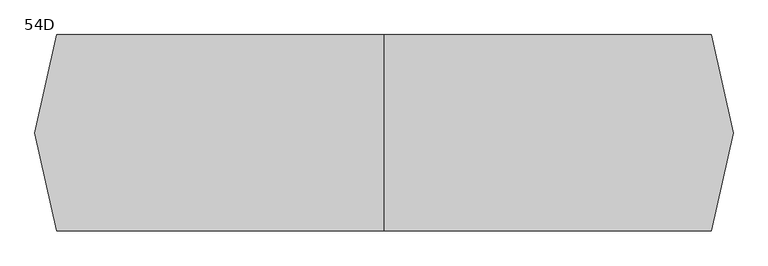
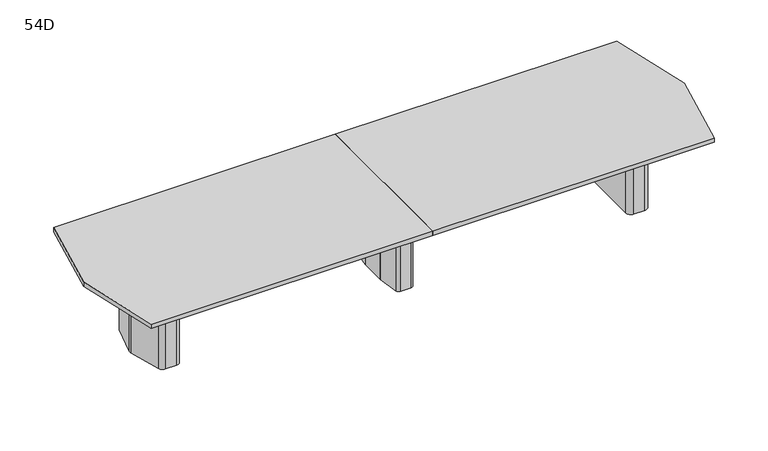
"""IFC4 building model written with IfcOpenShell, lengths in millimetres: furniture geometry, Coalesse_AM_Table_Conference_ETable2_Faceted_16ft_ThreeBase : 54D."""

from ifc_helpers import new_model, si_unit, frame, origin, place, context, project, spatial, polyline, circle_curve, outline, extrude, source, transform, mapped, element, save
from ifc_brep_helpers import plane_surface, cylinder_surface, revolved_surface, advanced_brep


def furniture_54d_60159ee5(model_context):
    return source(origin(), model_context, "Body", "SolidModel", [
        advanced_brep(
        [(35.71875, 206.375, 3.175), (10.31875, 231.775, 3.175), (-10.31875, 231.775, 3.175), (-35.71875, 206.375, 3.175), (-35.71875, -206.375, 3.175), (-10.31875, -231.775, 3.175), (10.31875, -231.775, 3.175), (35.71875, -206.375, 3.175), (-61.11875, 206.375, 0.0), (-10.31875, 257.175, 0.0), (10.31875, 257.175, 0.0), (61.11875, 206.375, 0.0), (61.11875, -206.375, 0.0), (10.31875, -257.175, 0.0), (-10.31875, -257.175, 0.0), (-61.11875, -206.375, 0.0), (-61.11875, -206.375, 3.175), (-61.11875, 206.375, 3.175), (-10.31875, -257.175, 3.175), (10.31875, -257.175, 3.175), (61.11875, -206.375, 3.175), (61.11875, 206.375, 3.175), (10.31875, 257.175, 3.175), (-10.31875, 257.175, 3.175), (-92.6215974, 106.2976848, 698.5), (-92.86875, 102.7629613, 698.5), (-92.86875, -102.7629613, 698.5), (-92.6215974, -106.2976848, 698.5), (-67.7988375, -282.9347235, 698.5), (-42.6459902, -304.8, 698.5), (42.6459902, -304.8, 698.5), (67.7988375, -282.9347235, 698.5), (92.6215974, -106.2976848, 698.5), (92.86875, -102.7629613, 698.5), (92.86875, 102.7629613, 698.5), (92.6215974, 106.2976848, 698.5), (67.7988375, 282.9347235, 698.5), (42.6459902, 304.8, 698.5), (-42.6459902, 304.8, 698.5), (-67.7988375, 282.9347235, 698.5), (10.31875, 231.775, 698.5), (35.71875, 206.375, 698.5), (35.71875, -206.375, 698.5), (10.31875, -231.775, 698.5), (-10.31875, -231.775, 698.5), (-35.71875, -206.375, 698.5), (-35.71875, 206.375, 698.5), (-10.31875, 231.775, 698.5), (-92.6215974, 106.2976848, 3.175), (-67.7988375, 282.9347235, 3.175), (-42.6459902, 304.8, 3.175), (42.6459902, 304.8, 3.175), (67.7988375, 282.9347235, 3.175), (92.6215974, 106.2976848, 3.175), (92.86875, 102.7629613, 3.175), (92.86875, -102.7629613, 3.175), (92.6215974, -106.2976848, 3.175), (67.7988375, -282.9347235, 3.175), (42.6459902, -304.8, 3.175), (-42.6459902, -304.8, 3.175), (-67.7988375, -282.9347235, 3.175), (-92.6215974, -106.2976848, 3.175), (-92.86875, -102.7629613, 3.175), (-92.86875, 102.7629613, 3.175)],
        [
            (0, 1, circle_curve(frame((10.31875, 206.375, 3.175), z_axis=(0.0, 0.0, 1.0), x_axis=(1.0, 0.0, 0.0)), 25.4)),
            (1, 2),
            (2, 3, circle_curve(frame((-10.31875, 206.375, 3.175), z_axis=(0.0, 0.0, 1.0), x_axis=(1.0, 0.0, 0.0)), 25.4)),
            (3, 4),
            (4, 5, circle_curve(frame((-10.31875, -206.375, 3.175), z_axis=(0.0, 0.0, 1.0), x_axis=(1.0, 0.0, 0.0)), 25.4)),
            (5, 6),
            (6, 7, circle_curve(frame((10.31875, -206.375, 3.175), z_axis=(0.0, 0.0, 1.0), x_axis=(1.0, 0.0, 0.0)), 25.4)),
            (7, 0),
            (8, 9, circle_curve(frame((-10.31875, 206.375, 0.0), z_axis=(0.0, 0.0, -1.0), x_axis=(1.0, 0.0, 0.0)), 50.8)),
            (9, 10),
            (10, 11, circle_curve(frame((10.31875, 206.375, 0.0), z_axis=(0.0, 0.0, -1.0), x_axis=(1.0, 0.0, 0.0)), 50.8)),
            (11, 12),
            (12, 13, circle_curve(frame((10.31875, -206.375, 0.0), z_axis=(0.0, 0.0, -1.0), x_axis=(1.0, 0.0, 0.0)), 50.8)),
            (13, 14),
            (14, 15, circle_curve(frame((-10.31875, -206.375, 0.0), z_axis=(0.0, 0.0, -1.0), x_axis=(1.0, 0.0, 0.0)), 50.8)),
            (15, 8),
            (15, 16),
            (16, 17),
            (17, 8),
            (14, 18),
            (18, 16, circle_curve(frame((-10.31875, -206.375, 3.175), z_axis=(0.0, 0.0, -1.0), x_axis=(1.0, 0.0, 0.0)), 50.8)),
            (13, 19),
            (19, 18),
            (12, 20),
            (20, 19, circle_curve(frame((10.31875, -206.375, 3.175), z_axis=(0.0, 0.0, -1.0), x_axis=(1.0, 0.0, 0.0)), 50.8)),
            (11, 21),
            (21, 20),
            (10, 22),
            (22, 21, circle_curve(frame((10.31875, 206.375, 3.175), z_axis=(0.0, 0.0, -1.0), x_axis=(1.0, 0.0, 0.0)), 50.8)),
            (9, 23),
            (23, 22),
            (17, 23, circle_curve(frame((-10.31875, 206.375, 3.175), z_axis=(0.0, 0.0, -1.0), x_axis=(1.0, 0.0, 0.0)), 50.8)),
            (24, 25, circle_curve(frame((-67.46875, 102.7629613, 698.5), z_axis=(0.0, 0.0, 1.0), x_axis=(1.0, 0.0, 0.0)), 25.4)),
            (25, 26),
            (26, 27, circle_curve(frame((-67.46875, -102.7629613, 698.5), z_axis=(0.0, 0.0, 1.0), x_axis=(1.0, 0.0, 0.0)), 25.4)),
            (27, 28),
            (28, 29, circle_curve(frame((-42.6459902, -279.4, 698.5), z_axis=(0.0, 0.0, 1.0), x_axis=(1.0, 0.0, 0.0)), 25.4)),
            (29, 30),
            (30, 31, circle_curve(frame((42.6459902, -279.4, 698.5), z_axis=(0.0, 0.0, 1.0), x_axis=(1.0, 0.0, 0.0)), 25.4)),
            (31, 32),
            (32, 33, circle_curve(frame((67.46875, -102.7629613, 698.5), z_axis=(0.0, 0.0, 1.0), x_axis=(1.0, 0.0, 0.0)), 25.4)),
            (33, 34),
            (34, 35, circle_curve(frame((67.46875, 102.7629613, 698.5), z_axis=(0.0, 0.0, 1.0), x_axis=(1.0, 0.0, 0.0)), 25.4)),
            (35, 36),
            (36, 37, circle_curve(frame((42.6459902, 279.4, 698.5), z_axis=(0.0, 0.0, 1.0), x_axis=(1.0, 0.0, 0.0)), 25.4)),
            (37, 38),
            (38, 39, circle_curve(frame((-42.6459902, 279.4, 698.5), z_axis=(0.0, 0.0, 1.0), x_axis=(1.0, 0.0, 0.0)), 25.4)),
            (39, 24),
            (40, 41, circle_curve(frame((10.31875, 206.375, 698.5), z_axis=(0.0, 0.0, -1.0), x_axis=(1.0, 0.0, 0.0)), 25.4)),
            (41, 42),
            (42, 43, circle_curve(frame((10.31875, -206.375, 698.5), z_axis=(0.0, 0.0, -1.0), x_axis=(1.0, 0.0, 0.0)), 25.4)),
            (43, 44),
            (44, 45, circle_curve(frame((-10.31875, -206.375, 698.5), z_axis=(0.0, 0.0, -1.0), x_axis=(1.0, 0.0, 0.0)), 25.4)),
            (45, 46),
            (46, 47, circle_curve(frame((-10.31875, 206.375, 698.5), z_axis=(0.0, 0.0, -1.0), x_axis=(1.0, 0.0, 0.0)), 25.4)),
            (47, 40),
            (48, 49),
            (49, 50, circle_curve(frame((-42.6459902, 279.4, 3.175), z_axis=(0.0, 0.0, -1.0), x_axis=(1.0, 0.0, 0.0)), 25.4)),
            (50, 51),
            (51, 52, circle_curve(frame((42.6459902, 279.4, 3.175), z_axis=(0.0, 0.0, -1.0), x_axis=(1.0, 0.0, 0.0)), 25.4)),
            (52, 53),
            (53, 54, circle_curve(frame((67.46875, 102.7629613, 3.175), z_axis=(0.0, 0.0, -1.0), x_axis=(1.0, 0.0, 0.0)), 25.4)),
            (54, 55),
            (55, 56, circle_curve(frame((67.46875, -102.7629613, 3.175), z_axis=(0.0, 0.0, -1.0), x_axis=(1.0, 0.0, 0.0)), 25.4)),
            (56, 57),
            (57, 58, circle_curve(frame((42.6459902, -279.4, 3.175), z_axis=(0.0, 0.0, -1.0), x_axis=(1.0, 0.0, 0.0)), 25.4)),
            (58, 59),
            (59, 60, circle_curve(frame((-42.6459902, -279.4, 3.175), z_axis=(0.0, 0.0, -1.0), x_axis=(1.0, 0.0, 0.0)), 25.4)),
            (60, 61),
            (61, 62, circle_curve(frame((-67.46875, -102.7629613, 3.175), z_axis=(0.0, 0.0, -1.0), x_axis=(1.0, 0.0, 0.0)), 25.4)),
            (62, 63),
            (63, 48, circle_curve(frame((-67.46875, 102.7629613, 3.175), z_axis=(0.0, 0.0, -1.0), x_axis=(1.0, 0.0, 0.0)), 25.4)),
            (24, 48),
            (63, 25),
            (62, 26),
            (61, 27),
            (60, 28),
            (59, 29),
            (58, 30),
            (57, 31),
            (56, 32),
            (55, 33),
            (54, 34),
            (53, 35),
            (52, 36),
            (51, 37),
            (50, 38),
            (49, 39),
            (40, 1),
            (0, 41),
            (7, 42),
            (6, 43),
            (5, 44),
            (4, 45),
            (3, 46),
            (2, 47),
        ],
        [
            plane_surface(frame((-61.11875, -206.375, 3.175), z_axis=(0.0, 0.0, 1.0), x_axis=(0.0, -1.0, 0.0))),
            plane_surface(frame((-61.11875, -206.375, 0.0), z_axis=(0.0, 0.0, -1.0), x_axis=(0.0, 1.0, 0.0))),
            plane_surface(frame((-61.11875, 206.375, 3.175), z_axis=(-1.0, 0.0, 0.0), x_axis=(0.0, 0.0, -1.0))),
            cylinder_surface(frame((-10.31875, -206.375, 0.0), z_axis=(0.0, 0.0, 1.0), x_axis=(1.0, 0.0, 0.0)), 50.8),
            plane_surface(frame((-10.31875, -257.175, 3.175), z_axis=(0.0, -1.0, 0.0), x_axis=(0.0, 0.0, -1.0))),
            cylinder_surface(frame((10.31875, -206.375, 0.0), z_axis=(0.0, 0.0, 1.0), x_axis=(1.0, 0.0, 0.0)), 50.8),
            plane_surface(frame((61.11875, -206.375, 3.175), z_axis=(1.0, 0.0, 0.0), x_axis=(0.0, 0.0, -1.0))),
            cylinder_surface(frame((10.31875, 206.375, 0.0), z_axis=(0.0, 0.0, 1.0), x_axis=(1.0, 0.0, 0.0)), 50.8),
            plane_surface(frame((10.31875, 257.175, 3.175), z_axis=(0.0, 1.0, 0.0), x_axis=(0.0, 0.0, -1.0))),
            cylinder_surface(frame((-10.31875, 206.375, 0.0), z_axis=(0.0, 0.0, 1.0), x_axis=(1.0, 0.0, 0.0)), 50.8),
            plane_surface(frame((-42.06875, 102.7629613, 698.5), z_axis=(0.0, 0.0, 1.0), x_axis=(0.0, 1.0, 0.0))),
            plane_surface(frame((-42.06875, 102.7629613, 3.175), z_axis=(0.0, 0.0, -1.0), x_axis=(0.0, -1.0, 0.0))),
            cylinder_surface(frame((-67.46875, 102.7629613, 3.175), z_axis=(0.0, 0.0, 1.0), x_axis=(1.0, 0.0, 0.0)), 25.4),
            plane_surface(frame((-92.86875, 102.7629613, 698.5), z_axis=(-1.0, 0.0, 0.0), x_axis=(0.0, 0.0, -1.0))),
            cylinder_surface(frame((-67.46875, -102.7629613, 3.175), z_axis=(0.0, 0.0, 1.0), x_axis=(1.0, 0.0, 0.0)), 25.4),
            plane_surface(frame((-92.6215974, -106.2976848, 698.5), z_axis=(-0.9902695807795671, -0.13916234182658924, 0.0), x_axis=(0.0, 0.0, -1.0))),
            cylinder_surface(frame((-42.6459902, -279.4, 3.175), z_axis=(0.0, 0.0, 1.0), x_axis=(1.0, 0.0, 0.0)), 25.4),
            plane_surface(frame((-42.6459902, -304.8, 698.5), z_axis=(0.0, -1.0, 0.0), x_axis=(0.0, 0.0, -1.0))),
            cylinder_surface(frame((42.6459902, -279.4, 3.175), z_axis=(0.0, 0.0, 1.0), x_axis=(1.0, 0.0, 0.0)), 25.4),
            plane_surface(frame((67.7988375, -282.9347235, 698.5), z_axis=(0.9902695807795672, -0.13916234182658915, 0.0), x_axis=(0.0, 0.0, -1.0))),
            cylinder_surface(frame((67.46875, -102.7629613, 3.175), z_axis=(0.0, 0.0, 1.0), x_axis=(1.0, 0.0, 0.0)), 25.4),
            plane_surface(frame((92.86875, -102.7629613, 698.5), z_axis=(1.0, 0.0, 0.0), x_axis=(0.0, 0.0, -1.0))),
            cylinder_surface(frame((67.46875, 102.7629613, 3.175), z_axis=(0.0, 0.0, 1.0), x_axis=(1.0, 0.0, 0.0)), 25.4),
            plane_surface(frame((92.6215974, 106.2976848, 698.5), z_axis=(0.9902695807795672, 0.1391623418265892, 0.0), x_axis=(0.0, 0.0, -1.0))),
            cylinder_surface(frame((42.6459902, 279.4, 3.175), z_axis=(0.0, 0.0, 1.0), x_axis=(1.0, 0.0, 0.0)), 25.4),
            plane_surface(frame((42.6459902, 304.8, 698.5), z_axis=(0.0, 1.0, 0.0), x_axis=(0.0, 0.0, -1.0))),
            cylinder_surface(frame((-42.6459902, 279.4, 3.175), z_axis=(0.0, 0.0, 1.0), x_axis=(1.0, 0.0, 0.0)), 25.4),
            plane_surface(frame((-67.7988375, 282.9347235, 698.5), z_axis=(-0.9902695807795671, 0.13916234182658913, 0.0), x_axis=(0.0, 0.0, -1.0))),
            revolved_surface(polyline([(35.71875, 206.375, 3.175), (35.71875, 206.375, 698.5)]), (10.31875, 206.375, 0.0), (0.0, 0.0, -1.0)),
            plane_surface(frame((35.71875, 206.375, 698.5), z_axis=(-1.0, 0.0, 0.0), x_axis=(0.0, 0.0, -1.0))),
            revolved_surface(polyline([(35.71875, -206.375, 3.175), (35.71875, -206.375, 698.5)]), (10.31875, -206.375, 0.0), (0.0, 0.0, -1.0)),
            plane_surface(frame((10.31875, -231.775, 698.5), z_axis=(0.0, 1.0, 0.0), x_axis=(0.0, 0.0, -1.0))),
            revolved_surface(polyline([(15.081249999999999, -206.375, 3.175), (15.081249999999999, -206.375, 698.5)]), (-10.31875, -206.375, 0.0), (0.0, 0.0, -1.0)),
            plane_surface(frame((-35.71875, -206.375, 698.5), z_axis=(1.0, 0.0, 0.0), x_axis=(0.0, 0.0, -1.0))),
            revolved_surface(polyline([(15.081249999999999, 206.375, 3.175), (15.081249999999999, 206.375, 698.5)]), (-10.31875, 206.375, 0.0), (0.0, 0.0, -1.0)),
            plane_surface(frame((-10.31875, 231.775, 698.5), z_axis=(0.0, -1.0, 0.0), x_axis=(0.0, 0.0, -1.0))),
        ],
        [
            (0, [[1, 2, 3, 4, 5, 6, 7, 8]]),
            (1, [[9, 10, 11, 12, 13, 14, 15, 16]]),
            (2, [[-16, 17, 18, 19]]),
            (3, [[-15, 20, 21, -17]]),
            (4, [[-14, 22, 23, -20]]),
            (5, [[-13, 24, 25, -22]]),
            (6, [[-12, 26, 27, -24]]),
            (7, [[-11, 28, 29, -26]]),
            (8, [[-10, 30, 31, -28]]),
            (9, [[-9, -19, 32, -30]]),
            (10, [[33, 34, 35, 36, 37, 38, 39, 40, 41, 42, 43, 44, 45, 46, 47, 48], [49, 50, 51, 52, 53, 54, 55, 56]]),
            (11, [[57, 58, 59, 60, 61, 62, 63, 64, 65, 66, 67, 68, 69, 70, 71, 72], [-18, -21, -23, -25, -27, -29, -31, -32]]),
            (12, [[-33, 73, -72, 74]]),
            (13, [[-34, -74, -71, 75]]),
            (14, [[-35, -75, -70, 76]]),
            (15, [[-36, -76, -69, 77]]),
            (16, [[-37, -77, -68, 78]]),
            (17, [[-38, -78, -67, 79]]),
            (18, [[-39, -79, -66, 80]]),
            (19, [[-40, -80, -65, 81]]),
            (20, [[-41, -81, -64, 82]]),
            (21, [[-42, -82, -63, 83]]),
            (22, [[-43, -83, -62, 84]]),
            (23, [[-44, -84, -61, 85]]),
            (24, [[-45, -85, -60, 86]]),
            (25, [[-46, -86, -59, 87]]),
            (26, [[-47, -87, -58, 88]]),
            (27, [[-48, -88, -57, -73]]),
            (28, [[-49, 89, -1, 90]]),
            (29, [[-50, -90, -8, 91]]),
            (30, [[-51, -91, -7, 92]]),
            (31, [[-52, -92, -6, 93]]),
            (32, [[-53, -93, -5, 94]]),
            (33, [[-54, -94, -4, 95]]),
            (34, [[-55, -95, -3, 96]]),
            (35, [[-56, -96, -2, -89]]),
        ],
    ),
        advanced_brep(
        [(1979.824548, 274.2093613, 698.5), (1939.9579246, 304.8, 698.5), (1851.025, 304.8, 698.5), (1809.75, 263.525, 698.5), (1809.75, -263.525, 698.5), (1851.025, -304.8, 698.5), (1939.9579246, -304.8, 698.5), (1979.824548, -274.2093613, 698.5), (2050.4503901, -10.6333708, 698.5), (2050.4503901, 10.6333708, 698.5), (1847.85, -206.375, 698.5), (1847.85, 206.375, 698.5), (1873.25, 231.775, 698.5), (1932.2608422, 231.775, 698.5), (1956.795338, 212.9490792, 698.5), (1995.4875, 68.54974, 698.5), (1995.4875, -68.54974, 698.5), (1956.795338, -212.9490792, 698.5), (1932.2608422, -231.775, 698.5), (1873.25, -231.775, 698.5), (1979.824548, 274.2093613, 3.175), (2050.4503901, 10.6333708, 3.175), (2050.4503901, -10.6333708, 3.175), (1979.824548, -274.2093613, 3.175), (1939.9579246, -304.8, 3.175), (1851.025, -304.8, 3.175), (1809.75, -263.525, 3.175), (1809.75, 263.525, 3.175), (1851.025, 304.8, 3.175), (1939.9579246, 304.8, 3.175), (1969.0625859, 216.2361187, 3.175), (1932.2608422, 244.475, 3.175), (1873.25, 244.475, 3.175), (1835.15, 206.375, 3.175), (1835.15, -206.375, 3.175), (1873.25, -244.475, 3.175), (1932.2608422, -244.475, 3.175), (1969.0625859, -216.2361187, 3.175), (2008.1875, -70.2217466, 3.175), (2008.1875, 70.2217466, 3.175), (1873.25, -231.775, 3.175), (1847.85, -206.375, 3.175), (1932.2608422, -231.775, 3.175), (1956.795338, -212.9490792, 3.175), (1995.4875, -68.54974, 3.175), (1995.4875, 68.54974, 3.175), (1956.795338, 212.9490792, 3.175), (1932.2608422, 231.775, 3.175), (1873.25, 231.775, 3.175), (1847.85, 206.375, 3.175), (1969.0625859, 216.2361187, 0.0), (2008.1875, 70.2217466, 0.0), (2008.1875, -70.2217466, 0.0), (1969.0625859, -216.2361187, 0.0), (1932.2608422, -244.475, 0.0), (1873.25, -244.475, 0.0), (1835.15, -206.375, 0.0), (1835.15, 206.375, 0.0), (1873.25, 244.475, 0.0), (1932.2608422, 244.475, 0.0)],
        [
            (0, 1, circle_curve(frame((1939.9579246, 263.5270004, 698.5), z_axis=(0.0, 0.0, 1.0), x_axis=(-1.0, 0.0, 0.0)), 41.2729996)),
            (1, 2),
            (2, 3, circle_curve(frame((1851.025, 263.525, 698.5), z_axis=(0.0, 0.0, 1.0), x_axis=(-1.0, 0.0, 0.0)), 41.275)),
            (3, 4),
            (4, 5, circle_curve(frame((1851.025, -263.525, 698.5), z_axis=(0.0, 0.0, 1.0), x_axis=(-1.0, 0.0, 0.0)), 41.275)),
            (5, 6),
            (6, 7, circle_curve(frame((1939.9579246, -263.5270004, 698.5), z_axis=(0.0, 0.0, 1.0), x_axis=(-1.0, 0.0, 0.0)), 41.2729996)),
            (7, 8),
            (8, 9, circle_curve(frame((2010.7665979, 0.0, 698.5), z_axis=(0.0, 0.0, 1.0), x_axis=(-1.0, 0.0, 0.0)), 41.0837187)),
            (9, 0),
            (10, 11),
            (11, 12, circle_curve(frame((1873.25, 206.375, 698.5), z_axis=(0.0, 0.0, -1.0), x_axis=(-1.0, 0.0, 0.0)), 25.4)),
            (12, 13),
            (13, 14, circle_curve(frame((1932.2608422, 206.375, 698.5), z_axis=(0.0, 0.0, -1.0), x_axis=(-1.0, 0.0, 0.0)), 25.4)),
            (14, 15),
            (15, 16),
            (16, 17),
            (17, 18, circle_curve(frame((1932.2608422, -206.375, 698.5), z_axis=(0.0, 0.0, -1.0), x_axis=(-1.0, 0.0, 0.0)), 25.4)),
            (18, 19),
            (19, 10, circle_curve(frame((1873.25, -206.375, 698.5), z_axis=(0.0, 0.0, -1.0), x_axis=(-1.0, 0.0, 0.0)), 25.4)),
            (20, 21),
            (21, 22, circle_curve(frame((2010.7665979, 0.0, 3.175), z_axis=(0.0, 0.0, -1.0), x_axis=(-1.0, 0.0, 0.0)), 41.0837187)),
            (22, 23),
            (23, 24, circle_curve(frame((1939.9579246, -263.5270004, 3.175), z_axis=(0.0, 0.0, -1.0), x_axis=(-1.0, 0.0, 0.0)), 41.2729996)),
            (24, 25),
            (25, 26, circle_curve(frame((1851.025, -263.525, 3.175), z_axis=(0.0, 0.0, -1.0), x_axis=(-1.0, 0.0, 0.0)), 41.275)),
            (26, 27),
            (27, 28, circle_curve(frame((1851.025, 263.525, 3.175), z_axis=(0.0, 0.0, -1.0), x_axis=(-1.0, 0.0, 0.0)), 41.275)),
            (28, 29),
            (29, 20, circle_curve(frame((1939.9579246, 263.5270004, 3.175), z_axis=(0.0, 0.0, -1.0), x_axis=(-1.0, 0.0, 0.0)), 41.2729996)),
            (30, 31, circle_curve(frame((1932.2608422, 206.375, 3.175), z_axis=(0.0, 0.0, 1.0), x_axis=(-1.0, 0.0, 0.0)), 38.1)),
            (31, 32),
            (32, 33, circle_curve(frame((1873.25, 206.375, 3.175), z_axis=(0.0, 0.0, 1.0), x_axis=(-1.0, 0.0, 0.0)), 38.1)),
            (33, 34),
            (34, 35, circle_curve(frame((1873.25, -206.375, 3.175), z_axis=(0.0, 0.0, 1.0), x_axis=(-1.0, 0.0, 0.0)), 38.1)),
            (35, 36),
            (36, 37, circle_curve(frame((1932.2608422, -206.375, 3.175), z_axis=(0.0, 0.0, 1.0), x_axis=(-1.0, 0.0, 0.0)), 38.1)),
            (37, 38),
            (38, 39),
            (39, 30),
            (9, 21),
            (20, 0),
            (8, 22),
            (7, 23),
            (6, 24),
            (5, 25),
            (4, 26),
            (3, 27),
            (2, 28),
            (1, 29),
            (19, 40),
            (40, 41, circle_curve(frame((1873.25, -206.375, 3.175), z_axis=(0.0, 0.0, -1.0), x_axis=(-1.0, 0.0, 0.0)), 25.4)),
            (41, 10),
            (18, 42),
            (42, 40),
            (17, 43),
            (43, 42, circle_curve(frame((1932.2608422, -206.375, 3.175), z_axis=(0.0, 0.0, -1.0), x_axis=(-1.0, 0.0, 0.0)), 25.4)),
            (16, 44),
            (44, 43),
            (15, 45),
            (45, 44),
            (14, 46),
            (46, 45),
            (13, 47),
            (47, 46, circle_curve(frame((1932.2608422, 206.375, 3.175), z_axis=(0.0, 0.0, -1.0), x_axis=(-1.0, 0.0, 0.0)), 25.4)),
            (12, 48),
            (48, 47),
            (11, 49),
            (49, 48, circle_curve(frame((1873.25, 206.375, 3.175), z_axis=(0.0, 0.0, -1.0), x_axis=(-1.0, 0.0, 0.0)), 25.4)),
            (41, 49),
            (50, 51),
            (51, 52),
            (52, 53),
            (53, 54, circle_curve(frame((1932.2608422, -206.375, 0.0), z_axis=(0.0, 0.0, -1.0), x_axis=(-1.0, 0.0, 0.0)), 38.1)),
            (54, 55),
            (55, 56, circle_curve(frame((1873.25, -206.375, 0.0), z_axis=(0.0, 0.0, -1.0), x_axis=(-1.0, 0.0, 0.0)), 38.1)),
            (56, 57),
            (57, 58, circle_curve(frame((1873.25, 206.375, 0.0), z_axis=(0.0, 0.0, -1.0), x_axis=(-1.0, 0.0, 0.0)), 38.1)),
            (58, 59),
            (59, 50, circle_curve(frame((1932.2608422, 206.375, 0.0), z_axis=(0.0, 0.0, -1.0), x_axis=(-1.0, 0.0, 0.0)), 38.1)),
            (50, 30),
            (39, 51),
            (38, 52),
            (37, 53),
            (36, 54),
            (35, 55),
            (34, 56),
            (33, 57),
            (32, 58),
            (31, 59),
        ],
        [
            plane_surface(frame((2050.4374275, 10.6817473, 698.5), z_axis=(0.0, 0.0, 1.0000000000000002), x_axis=(0.25882201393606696, -0.9659250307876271, 0.0))),
            plane_surface(frame((2050.4374275, 10.6817473, 3.175), z_axis=(0.0, 0.0, -1.0000000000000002), x_axis=(-0.25882201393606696, 0.9659250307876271, 0.0))),
            plane_surface(frame((1979.824548, 274.2093613, 698.5), z_axis=(0.9659250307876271, 0.25882201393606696, 0.0), x_axis=(0.0, 0.0, -1.0))),
            cylinder_surface(frame((2010.7665979, 0.0, 3.175), z_axis=(0.0, 0.0, 1.0), x_axis=(-1.0, 0.0, 0.0)), 41.0837187),
            plane_surface(frame((2050.4503901, -10.6333708, 698.5), z_axis=(0.9659250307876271, -0.2588220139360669, 0.0), x_axis=(0.0, 0.0, -1.0))),
            cylinder_surface(frame((1939.9579246, -263.5270004, 3.175), z_axis=(0.0, 0.0, 1.0), x_axis=(-1.0, 0.0, 0.0)), 41.2729996),
            plane_surface(frame((1939.9579246, -304.8, 698.5), z_axis=(0.0, -1.0, 0.0), x_axis=(0.0, 0.0, -1.0))),
            cylinder_surface(frame((1851.025, -263.525, 3.175), z_axis=(0.0, 0.0, 1.0), x_axis=(-1.0, 0.0, 0.0)), 41.275),
            plane_surface(frame((1809.75, -263.525, 698.5), z_axis=(-1.0, 0.0, 0.0), x_axis=(0.0, 0.0, -1.0))),
            cylinder_surface(frame((1851.025, 263.525, 3.175), z_axis=(0.0, 0.0, 1.0), x_axis=(-1.0, 0.0, 0.0)), 41.275),
            plane_surface(frame((1851.025, 304.8, 698.5), z_axis=(0.0, 1.0, 0.0), x_axis=(0.0, 0.0, -1.0))),
            cylinder_surface(frame((1939.9579246, 263.5270004, 3.175), z_axis=(0.0, 0.0, 1.0), x_axis=(-1.0, 0.0, 0.0)), 41.2729996),
            revolved_surface(polyline([(1847.85, -206.375, 3.175), (1847.85, -206.375, 698.5)]), (1873.25, -206.375, 0.0), (0.0, 0.0, -1.0)),
            plane_surface(frame((1873.25, -231.775, 698.5), z_axis=(0.0, 1.0, 0.0), x_axis=(0.0, 0.0, -1.0))),
            revolved_surface(polyline([(1906.8608422, -206.375, 3.175), (1906.8608422, -206.375, 698.5)]), (1932.2608422, -206.375, 0.0), (0.0, 0.0, -1.0)),
            plane_surface(frame((1956.795338, -212.9490792, 698.5), z_axis=(-0.9659250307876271, 0.2588220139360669, 0.0), x_axis=(0.0, 0.0, -1.0))),
            plane_surface(frame((1995.4875, -68.54974, 698.5), z_axis=(-1.0, 0.0, 0.0), x_axis=(0.0, 0.0, -1.0))),
            plane_surface(frame((1995.4875, 68.54974, 698.5), z_axis=(-0.9659250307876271, -0.25882201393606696, 0.0), x_axis=(0.0, 0.0, -1.0))),
            revolved_surface(polyline([(1906.8608422, 206.375, 3.175), (1906.8608422, 206.375, 698.5)]), (1932.2608422, 206.375, 0.0), (0.0, 0.0, -1.0)),
            plane_surface(frame((1932.2608422, 231.775, 698.5), z_axis=(0.0, -1.0, 0.0), x_axis=(0.0, 0.0, -1.0))),
            revolved_surface(polyline([(1847.85, 206.375, 3.175), (1847.85, 206.375, 698.5)]), (1873.25, 206.375, 0.0), (0.0, 0.0, -1.0)),
            plane_surface(frame((1847.85, 206.375, 698.5), z_axis=(1.0, 0.0, 0.0), x_axis=(0.0, 0.0, -1.0))),
            plane_surface(frame((2007.7547479, 71.8367796, 3.175), z_axis=(0.0, 0.0, 1.0), x_axis=(0.25882201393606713, -0.965925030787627, 0.0))),
            plane_surface(frame((2007.7547479, 71.8367796, 0.0), z_axis=(0.0, 0.0, -1.0), x_axis=(-0.25882201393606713, 0.965925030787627, 0.0))),
            plane_surface(frame((1969.0625859, 216.2361187, 3.175), z_axis=(0.965925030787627, 0.25882201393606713, 0.0), x_axis=(0.0, 0.0, -1.0))),
            plane_surface(frame((2008.1875, 70.2217466, 3.175), z_axis=(1.0, 0.0, 0.0), x_axis=(0.0, 0.0, -1.0))),
            plane_surface(frame((2008.1875, -70.2217466, 3.175), z_axis=(0.9659250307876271, -0.2588220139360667, 0.0), x_axis=(0.0, 0.0, -1.0))),
            cylinder_surface(frame((1932.2608422, -206.375, 0.0), z_axis=(0.0, 0.0, 1.0), x_axis=(-1.0, 0.0, 0.0)), 38.1),
            plane_surface(frame((1932.2608422, -244.475, 3.175), z_axis=(0.0, -1.0, 0.0), x_axis=(0.0, 0.0, -1.0))),
            cylinder_surface(frame((1873.25, -206.375, 0.0), z_axis=(0.0, 0.0, 1.0), x_axis=(-1.0, 0.0, 0.0)), 38.1),
            plane_surface(frame((1835.15, -206.375, 3.175), z_axis=(-1.0, 0.0, 0.0), x_axis=(0.0, 0.0, -1.0))),
            cylinder_surface(frame((1873.25, 206.375, 0.0), z_axis=(0.0, 0.0, 1.0), x_axis=(-1.0, 0.0, 0.0)), 38.1),
            plane_surface(frame((1873.25, 244.475, 3.175), z_axis=(0.0, 1.0, 0.0), x_axis=(0.0, 0.0, -1.0))),
            cylinder_surface(frame((1932.2608422, 206.375, 0.0), z_axis=(0.0, 0.0, 1.0), x_axis=(-1.0, 0.0, 0.0)), 38.1),
        ],
        [
            (0, [[1, 2, 3, 4, 5, 6, 7, 8, 9, 10], [11, 12, 13, 14, 15, 16, 17, 18, 19, 20]]),
            (1, [[21, 22, 23, 24, 25, 26, 27, 28, 29, 30], [31, 32, 33, 34, 35, 36, 37, 38, 39, 40]]),
            (2, [[41, -21, 42, -10]]),
            (3, [[43, -22, -41, -9]]),
            (4, [[44, -23, -43, -8]]),
            (5, [[45, -24, -44, -7]]),
            (6, [[46, -25, -45, -6]]),
            (7, [[47, -26, -46, -5]]),
            (8, [[48, -27, -47, -4]]),
            (9, [[49, -28, -48, -3]]),
            (10, [[50, -29, -49, -2]]),
            (11, [[-42, -30, -50, -1]]),
            (12, [[51, 52, 53, -20]]),
            (13, [[54, 55, -51, -19]]),
            (14, [[56, 57, -54, -18]]),
            (15, [[58, 59, -56, -17]]),
            (16, [[60, 61, -58, -16]]),
            (17, [[62, 63, -60, -15]]),
            (18, [[64, 65, -62, -14]]),
            (19, [[66, 67, -64, -13]]),
            (20, [[68, 69, -66, -12]]),
            (21, [[-53, 70, -68, -11]]),
            (22, [[-55, -57, -59, -61, -63, -65, -67, -69, -70, -52]]),
            (23, [[71, 72, 73, 74, 75, 76, 77, 78, 79, 80]]),
            (24, [[81, -40, 82, -71]]),
            (25, [[-82, -39, 83, -72]]),
            (26, [[-83, -38, 84, -73]]),
            (27, [[-84, -37, 85, -74]]),
            (28, [[-85, -36, 86, -75]]),
            (29, [[-86, -35, 87, -76]]),
            (30, [[-87, -34, 88, -77]]),
            (31, [[-88, -33, 89, -78]]),
            (32, [[-89, -32, 90, -79]]),
            (33, [[-90, -31, -81, -80]]),
        ],
    ),
        advanced_brep(
        [(-1990.937048, 274.2093613, 698.5), (-2061.5628901, 10.6333708, 698.5), (-2061.5628901, -10.6333708, 698.5), (-1990.937048, -274.2093613, 698.5), (-1951.0704246, -304.8, 698.5), (-1862.1375, -304.8, 698.5), (-1820.8625, -263.525, 698.5), (-1820.8625, 263.525, 698.5), (-1862.1375, 304.8, 698.5), (-1951.0704246, 304.8, 698.5), (-1858.9625, -206.375, 698.5), (-1884.3625, -231.775, 698.5), (-1943.3733422, -231.775, 698.5), (-1967.907838, -212.9490792, 698.5), (-2006.6, -68.54974, 698.5), (-2006.6, 68.54974, 698.5), (-1967.907838, 212.9490792, 698.5), (-1943.3733422, 231.775, 698.5), (-1884.3625, 231.775, 698.5), (-1858.9625, 206.375, 698.5), (-1990.937048, 274.2093613, 3.175), (-1951.0704246, 304.8, 3.175), (-1862.1375, 304.8, 3.175), (-1820.8625, 263.525, 3.175), (-1820.8625, -263.525, 3.175), (-1862.1375, -304.8, 3.175), (-1951.0704246, -304.8, 3.175), (-1990.937048, -274.2093613, 3.175), (-2061.5628901, -10.6333708, 3.175), (-2061.5628901, 10.6333708, 3.175), (-1980.1750859, 216.2361187, 3.175), (-2019.3, 70.2217466, 3.175), (-2019.3, -70.2217466, 3.175), (-1980.1750859, -216.2361187, 3.175), (-1943.3733422, -244.475, 3.175), (-1884.3625, -244.475, 3.175), (-1846.2625, -206.375, 3.175), (-1846.2625, 206.375, 3.175), (-1884.3625, 244.475, 3.175), (-1943.3733422, 244.475, 3.175), (-1858.9625, -206.375, 3.175), (-1884.3625, -231.775, 3.175), (-1943.3733422, -231.775, 3.175), (-1967.907838, -212.9490792, 3.175), (-2006.6, -68.54974, 3.175), (-2006.6, 68.54974, 3.175), (-1967.907838, 212.9490792, 3.175), (-1943.3733422, 231.775, 3.175), (-1884.3625, 231.775, 3.175), (-1858.9625, 206.375, 3.175), (-1980.1750859, 216.2361187, 0.0), (-1943.3733422, 244.475, 0.0), (-1884.3625, 244.475, 0.0), (-1846.2625, 206.375, 0.0), (-1846.2625, -206.375, 0.0), (-1884.3625, -244.475, 0.0), (-1943.3733422, -244.475, 0.0), (-1980.1750859, -216.2361187, 0.0), (-2019.3, -70.2217466, 0.0), (-2019.3, 70.2217466, 0.0)],
        [
            (0, 1),
            (1, 2, circle_curve(frame((-2021.8790979, 0.0, 698.5), z_axis=(0.0, 0.0, 1.0), x_axis=(1.0, 0.0, 0.0)), 41.0837187)),
            (2, 3),
            (3, 4, circle_curve(frame((-1951.0704246, -263.5270004, 698.5), z_axis=(0.0, 0.0, 1.0), x_axis=(1.0, 0.0, 0.0)), 41.2729996)),
            (4, 5),
            (5, 6, circle_curve(frame((-1862.1375, -263.525, 698.5), z_axis=(0.0, 0.0, 1.0), x_axis=(1.0, 0.0, 0.0)), 41.275)),
            (6, 7),
            (7, 8, circle_curve(frame((-1862.1375, 263.525, 698.5), z_axis=(0.0, 0.0, 1.0), x_axis=(1.0, 0.0, 0.0)), 41.275)),
            (8, 9),
            (9, 0, circle_curve(frame((-1951.0704246, 263.5270004, 698.5), z_axis=(0.0, 0.0, 1.0), x_axis=(1.0, 0.0, 0.0)), 41.2729996)),
            (10, 11, circle_curve(frame((-1884.3625, -206.375, 698.5), z_axis=(0.0, 0.0, -1.0), x_axis=(1.0, 0.0, 0.0)), 25.4)),
            (11, 12),
            (12, 13, circle_curve(frame((-1943.3733422, -206.375, 698.5), z_axis=(0.0, 0.0, -1.0), x_axis=(1.0, 0.0, 0.0)), 25.4)),
            (13, 14),
            (14, 15),
            (15, 16),
            (16, 17, circle_curve(frame((-1943.3733422, 206.375, 698.5), z_axis=(0.0, 0.0, -1.0), x_axis=(1.0, 0.0, 0.0)), 25.4)),
            (17, 18),
            (18, 19, circle_curve(frame((-1884.3625, 206.375, 698.5), z_axis=(0.0, 0.0, -1.0), x_axis=(1.0, 0.0, 0.0)), 25.4)),
            (19, 10),
            (20, 21, circle_curve(frame((-1951.0704246, 263.5270004, 3.175), z_axis=(0.0, 0.0, -1.0), x_axis=(1.0, 0.0, 0.0)), 41.2729996)),
            (21, 22),
            (22, 23, circle_curve(frame((-1862.1375, 263.525, 3.175), z_axis=(0.0, 0.0, -1.0), x_axis=(1.0, 0.0, 0.0)), 41.275)),
            (23, 24),
            (24, 25, circle_curve(frame((-1862.1375, -263.525, 3.175), z_axis=(0.0, 0.0, -1.0), x_axis=(1.0, 0.0, 0.0)), 41.275)),
            (25, 26),
            (26, 27, circle_curve(frame((-1951.0704246, -263.5270004, 3.175), z_axis=(0.0, 0.0, -1.0), x_axis=(1.0, 0.0, 0.0)), 41.2729996)),
            (27, 28),
            (28, 29, circle_curve(frame((-2021.8790979, 0.0, 3.175), z_axis=(0.0, 0.0, -1.0), x_axis=(1.0, 0.0, 0.0)), 41.0837187)),
            (29, 20),
            (30, 31),
            (31, 32),
            (32, 33),
            (33, 34, circle_curve(frame((-1943.3733422, -206.375, 3.175), z_axis=(0.0, 0.0, 1.0), x_axis=(1.0, 0.0, 0.0)), 38.1)),
            (34, 35),
            (35, 36, circle_curve(frame((-1884.3625, -206.375, 3.175), z_axis=(0.0, 0.0, 1.0), x_axis=(1.0, 0.0, 0.0)), 38.1)),
            (36, 37),
            (37, 38, circle_curve(frame((-1884.3625, 206.375, 3.175), z_axis=(0.0, 0.0, 1.0), x_axis=(1.0, 0.0, 0.0)), 38.1)),
            (38, 39),
            (39, 30, circle_curve(frame((-1943.3733422, 206.375, 3.175), z_axis=(0.0, 0.0, 1.0), x_axis=(1.0, 0.0, 0.0)), 38.1)),
            (0, 20),
            (29, 1),
            (28, 2),
            (27, 3),
            (26, 4),
            (25, 5),
            (24, 6),
            (23, 7),
            (22, 8),
            (21, 9),
            (10, 40),
            (40, 41, circle_curve(frame((-1884.3625, -206.375, 3.175), z_axis=(0.0, 0.0, -1.0), x_axis=(1.0, 0.0, 0.0)), 25.4)),
            (41, 11),
            (41, 42),
            (42, 12),
            (42, 43, circle_curve(frame((-1943.3733422, -206.375, 3.175), z_axis=(0.0, 0.0, -1.0), x_axis=(1.0, 0.0, 0.0)), 25.4)),
            (43, 13),
            (43, 44),
            (44, 14),
            (44, 45),
            (45, 15),
            (45, 46),
            (46, 16),
            (46, 47, circle_curve(frame((-1943.3733422, 206.375, 3.175), z_axis=(0.0, 0.0, -1.0), x_axis=(1.0, 0.0, 0.0)), 25.4)),
            (47, 17),
            (47, 48),
            (48, 18),
            (48, 49, circle_curve(frame((-1884.3625, 206.375, 3.175), z_axis=(0.0, 0.0, -1.0), x_axis=(1.0, 0.0, 0.0)), 25.4)),
            (49, 19),
            (49, 40),
            (50, 51, circle_curve(frame((-1943.3733422, 206.375, 0.0), z_axis=(0.0, 0.0, -1.0), x_axis=(1.0, 0.0, 0.0)), 38.1)),
            (51, 52),
            (52, 53, circle_curve(frame((-1884.3625, 206.375, 0.0), z_axis=(0.0, 0.0, -1.0), x_axis=(1.0, 0.0, 0.0)), 38.1)),
            (53, 54),
            (54, 55, circle_curve(frame((-1884.3625, -206.375, 0.0), z_axis=(0.0, 0.0, -1.0), x_axis=(1.0, 0.0, 0.0)), 38.1)),
            (55, 56),
            (56, 57, circle_curve(frame((-1943.3733422, -206.375, 0.0), z_axis=(0.0, 0.0, -1.0), x_axis=(1.0, 0.0, 0.0)), 38.1)),
            (57, 58),
            (58, 59),
            (59, 50),
            (59, 31),
            (30, 50),
            (58, 32),
            (57, 33),
            (56, 34),
            (55, 35),
            (54, 36),
            (53, 37),
            (52, 38),
            (51, 39),
        ],
        [
            plane_surface(frame((-2061.5499275, 10.6817473, 698.5), z_axis=(0.0, 0.0, 1.0000000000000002), x_axis=(-0.25882201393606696, -0.9659250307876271, 0.0))),
            plane_surface(frame((-2061.5499275, 10.6817473, 3.175), z_axis=(0.0, 0.0, -1.0000000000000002), x_axis=(0.25882201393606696, 0.9659250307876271, 0.0))),
            plane_surface(frame((-1990.937048, 274.2093613, 698.5), z_axis=(-0.9659250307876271, 0.25882201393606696, 0.0), x_axis=(0.0, 0.0, -1.0))),
            cylinder_surface(frame((-2021.8790979, 0.0, 3.175), z_axis=(0.0, 0.0, 1.0), x_axis=(1.0, 0.0, 0.0)), 41.0837187),
            plane_surface(frame((-2061.5628901, -10.6333708, 698.5), z_axis=(-0.9659250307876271, -0.2588220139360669, 0.0), x_axis=(0.0, 0.0, -1.0))),
            cylinder_surface(frame((-1951.0704246, -263.5270004, 3.175), z_axis=(0.0, 0.0, 1.0), x_axis=(1.0, 0.0, 0.0)), 41.2729996),
            plane_surface(frame((-1951.0704246, -304.8, 698.5), z_axis=(0.0, -1.0, 0.0), x_axis=(0.0, 0.0, -1.0))),
            cylinder_surface(frame((-1862.1375, -263.525, 3.175), z_axis=(0.0, 0.0, 1.0), x_axis=(1.0, 0.0, 0.0)), 41.275),
            plane_surface(frame((-1820.8625, -263.525, 698.5), z_axis=(1.0, 0.0, 0.0), x_axis=(0.0, 0.0, -1.0))),
            cylinder_surface(frame((-1862.1375, 263.525, 3.175), z_axis=(0.0, 0.0, 1.0), x_axis=(1.0, 0.0, 0.0)), 41.275),
            plane_surface(frame((-1862.1375, 304.8, 698.5), z_axis=(0.0, 1.0, 0.0), x_axis=(0.0, 0.0, -1.0))),
            cylinder_surface(frame((-1951.0704246, 263.5270004, 3.175), z_axis=(0.0, 0.0, 1.0), x_axis=(1.0, 0.0, 0.0)), 41.2729996),
            revolved_surface(polyline([(-1858.9624999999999, -206.375, 3.175), (-1858.9624999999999, -206.375, 698.5)]), (-1884.3625, -206.375, 0.0), (0.0, 0.0, -1.0)),
            plane_surface(frame((-1884.3625, -231.775, 698.5), z_axis=(0.0, 1.0, 0.0), x_axis=(0.0, 0.0, -1.0))),
            revolved_surface(polyline([(-1917.9733422, -206.375, 3.175), (-1917.9733422, -206.375, 698.5)]), (-1943.3733422, -206.375, 0.0), (0.0, 0.0, -1.0)),
            plane_surface(frame((-1967.907838, -212.9490792, 698.5), z_axis=(0.9659250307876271, 0.2588220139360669, 0.0), x_axis=(0.0, 0.0, -1.0))),
            plane_surface(frame((-2006.6, -68.54974, 698.5), z_axis=(1.0, 0.0, 0.0), x_axis=(0.0, 0.0, -1.0))),
            plane_surface(frame((-2006.6, 68.54974, 698.5), z_axis=(0.9659250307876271, -0.25882201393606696, 0.0), x_axis=(0.0, 0.0, -1.0))),
            revolved_surface(polyline([(-1917.9733422, 206.375, 3.175), (-1917.9733422, 206.375, 698.5)]), (-1943.3733422, 206.375, 0.0), (0.0, 0.0, -1.0)),
            plane_surface(frame((-1943.3733422, 231.775, 698.5), z_axis=(0.0, -1.0, 0.0), x_axis=(0.0, 0.0, -1.0))),
            revolved_surface(polyline([(-1858.9624999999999, 206.375, 3.175), (-1858.9624999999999, 206.375, 698.5)]), (-1884.3625, 206.375, 0.0), (0.0, 0.0, -1.0)),
            plane_surface(frame((-1858.9625, 206.375, 698.5), z_axis=(-1.0, 0.0, 0.0), x_axis=(0.0, 0.0, -1.0))),
            plane_surface(frame((-2018.8672479, 71.8367796, 3.175), z_axis=(0.0, 0.0, 1.0), x_axis=(-0.25882201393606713, -0.965925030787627, 0.0))),
            plane_surface(frame((-2018.8672479, 71.8367796, 0.0), z_axis=(0.0, 0.0, -1.0), x_axis=(0.25882201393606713, 0.965925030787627, 0.0))),
            plane_surface(frame((-1980.1750859, 216.2361187, 3.175), z_axis=(-0.965925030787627, 0.25882201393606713, 0.0), x_axis=(0.0, 0.0, -1.0))),
            plane_surface(frame((-2019.3, 70.2217466, 3.175), z_axis=(-1.0, 0.0, 0.0), x_axis=(0.0, 0.0, -1.0))),
            plane_surface(frame((-2019.3, -70.2217466, 3.175), z_axis=(-0.9659250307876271, -0.2588220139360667, 0.0), x_axis=(0.0, 0.0, -1.0))),
            cylinder_surface(frame((-1943.3733422, -206.375, 0.0), z_axis=(0.0, 0.0, 1.0), x_axis=(1.0, 0.0, 0.0)), 38.1),
            plane_surface(frame((-1943.3733422, -244.475, 3.175), z_axis=(0.0, -1.0, 0.0), x_axis=(0.0, 0.0, -1.0))),
            cylinder_surface(frame((-1884.3625, -206.375, 0.0), z_axis=(0.0, 0.0, 1.0), x_axis=(1.0, 0.0, 0.0)), 38.1),
            plane_surface(frame((-1846.2625, -206.375, 3.175), z_axis=(1.0, 0.0, 0.0), x_axis=(0.0, 0.0, -1.0))),
            cylinder_surface(frame((-1884.3625, 206.375, 0.0), z_axis=(0.0, 0.0, 1.0), x_axis=(1.0, 0.0, 0.0)), 38.1),
            plane_surface(frame((-1884.3625, 244.475, 3.175), z_axis=(0.0, 1.0, 0.0), x_axis=(0.0, 0.0, -1.0))),
            cylinder_surface(frame((-1943.3733422, 206.375, 0.0), z_axis=(0.0, 0.0, 1.0), x_axis=(1.0, 0.0, 0.0)), 38.1),
        ],
        [
            (0, [[1, 2, 3, 4, 5, 6, 7, 8, 9, 10], [11, 12, 13, 14, 15, 16, 17, 18, 19, 20]]),
            (1, [[21, 22, 23, 24, 25, 26, 27, 28, 29, 30], [31, 32, 33, 34, 35, 36, 37, 38, 39, 40]]),
            (2, [[-1, 41, -30, 42]]),
            (3, [[-2, -42, -29, 43]]),
            (4, [[-3, -43, -28, 44]]),
            (5, [[-4, -44, -27, 45]]),
            (6, [[-5, -45, -26, 46]]),
            (7, [[-6, -46, -25, 47]]),
            (8, [[-7, -47, -24, 48]]),
            (9, [[-8, -48, -23, 49]]),
            (10, [[-9, -49, -22, 50]]),
            (11, [[-10, -50, -21, -41]]),
            (12, [[-11, 51, 52, 53]]),
            (13, [[-12, -53, 54, 55]]),
            (14, [[-13, -55, 56, 57]]),
            (15, [[-14, -57, 58, 59]]),
            (16, [[-15, -59, 60, 61]]),
            (17, [[-16, -61, 62, 63]]),
            (18, [[-17, -63, 64, 65]]),
            (19, [[-18, -65, 66, 67]]),
            (20, [[-19, -67, 68, 69]]),
            (21, [[-20, -69, 70, -51]]),
            (22, [[-52, -70, -68, -66, -64, -62, -60, -58, -56, -54]]),
            (23, [[71, 72, 73, 74, 75, 76, 77, 78, 79, 80]]),
            (24, [[-80, 81, -31, 82]]),
            (25, [[-79, 83, -32, -81]]),
            (26, [[-78, 84, -33, -83]]),
            (27, [[-77, 85, -34, -84]]),
            (28, [[-76, 86, -35, -85]]),
            (29, [[-75, 87, -36, -86]]),
            (30, [[-74, 88, -37, -87]]),
            (31, [[-73, 89, -38, -88]]),
            (32, [[-72, 90, -39, -89]]),
            (33, [[-71, -82, -40, -90]]),
        ],
    ),
        extrude(outline(polyline([(2286.3609518, 685.8), (2438.4, 0.0), (2286.3609518, -685.8), (0.0, -685.8), (0.0, 685.8), (2286.3609518, 685.8)])), frame((0.0, 0.0, 698.5), z_axis=(0.0, 0.0, 1.0), x_axis=(1.0, 0.0, 0.0)), (0.0, 0.0, 1.0), 38.1),
        extrude(outline(polyline([(0.0, 685.8), (0.0, -685.8), (-2286.3609518, -685.8), (-2438.4, 0.0), (-2286.3609518, 685.8), (0.0, 685.8)])), frame((0.0, 0.0, 698.5), z_axis=(0.0, 0.0, 1.0), x_axis=(1.0, 0.0, 0.0)), (0.0, 0.0, 1.0), 38.1),
        extrude(outline(polyline([(96.8375, 698.5), (103.1875, 698.5), (103.1875, 476.25), (-103.1875, 476.25), (-103.1875, 698.5), (-96.8375, 698.5), (-96.8375, 482.6), (96.8375, 482.6), (96.8375, 698.5)])), frame((-1820.8625, 0.0, 0.0), z_axis=(1.0, 0.0, 0.0), x_axis=(0.0, 1.0, 0.0)), (0.0, 0.0, 1.0), 3630.6125),
    ])


if __name__ == "__main__":
    model = new_model("IFC4")
    model_context = context("Model", 3, world=origin())
    ifc_project = project(units=[si_unit("LENGTHUNIT", "METRE", prefix="MILLI")], contexts=[model_context])
    site = spatial("IfcSite", under=ifc_project)
    building = spatial("IfcBuilding", under=site)
    placement = place(None, origin())
    furniture_54d_shape = furniture_54d_60159ee5(model_context)
    element("IfcFurniture", 1, ObjectType="Coalesse_AM_Table_Conference_ETable2_Faceted_16ft_ThreeBase : 54D", at=placement, inside=building, context=model_context, shape_type="MappedRepresentation", body=[
        mapped(furniture_54d_shape, transform((0.0, 0.0, 0.0), x_axis=(1.0, 0.0, 0.0), y_axis=(0.0, 1.0, 0.0), z_axis=(0.0, 0.0, 1.0))),
    ])
    save(model, "model.ifc")
